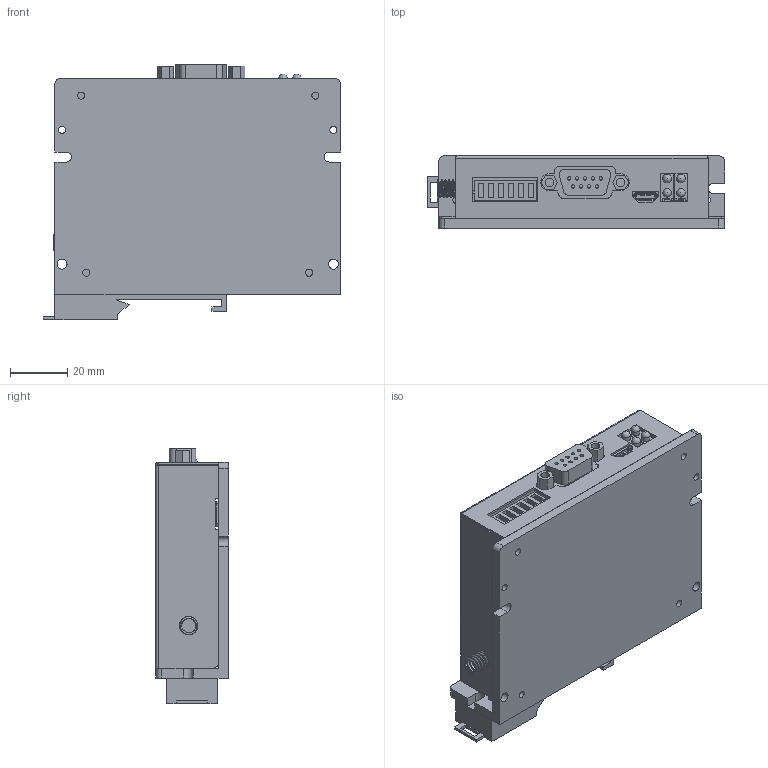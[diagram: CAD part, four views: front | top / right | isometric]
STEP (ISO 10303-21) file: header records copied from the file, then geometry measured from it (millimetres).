
FILE_DESCRIPTION(/* description */ (''),/* implementation_level */ '2;1');
FILE_NAME(/* name */ 'kw143-1.stp',/* time_stamp */ '2021-01-26T15:53:20+08:00',/* author */ (''),/* organization */ (''),/* preprocessor_version */ 'ST-DEVELOPER v16',/* originating_system */ 'SIEMENS PLM Software NX 10.0',/* authorisation */ '');
FILE_SCHEMA (('AUTOMOTIVE_DESIGN { 1 0 10303 214 3 1 1 1 }'));
Length unit declared in the file: millimetre
Products named in the file (1): kw143-1
Bounding box: 104 x 25.4 x 89.5 mm (x, y, z)
Volume: 53354.3 mm3; surface area: 54738.1 mm2
Topology: 10 solids, 10 shells, 626 faces, 1555 edges, 1033 vertices
Faces by surface type: plane 444, cylinder 159, sphere 16, bspline 5, cone 2
Full cylindrical faces by diameter (mm): 0.5 x4, 0.8 x15, 1 x23, 1.2 x9, 2.5 x11, 3 x12, 3.3 x3, 3.5 x4, 4.8 x1, 6.5 x1
Entity records: 20052 total; most frequent: CARTESIAN_POINT 5256, DIRECTION 2820, ORIENTED_EDGE 2798, EDGE_CURVE 1399, LINE 1052, VECTOR 1052, VERTEX_POINT 966, AXIS2_PLACEMENT_3D 884
